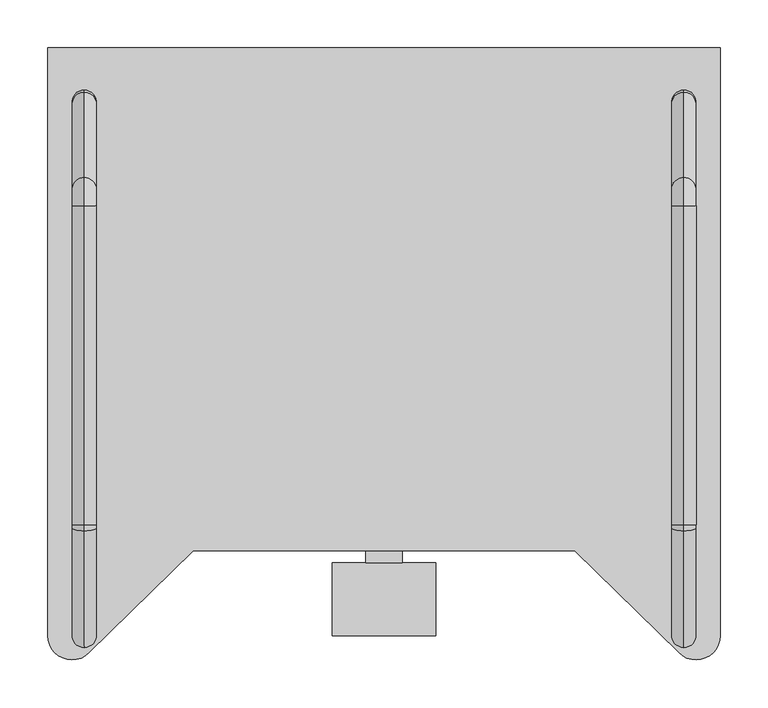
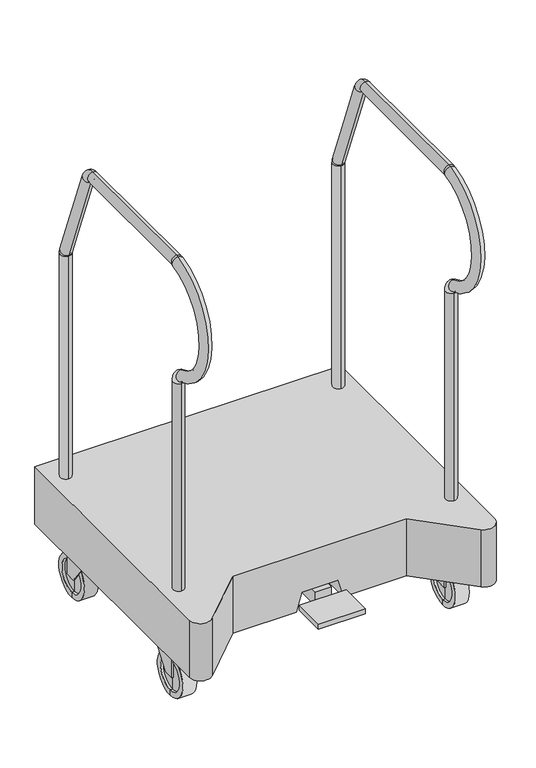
"""IFC4 building model written with IfcOpenShell, lengths in millimetres: furniture geometry."""

from ifc_helpers import new_model, si_unit, point, frame, origin, place, context, project, spatial, polyline, circle_curve, ellipse_curve, trimmed, outline, extrude, faceted_brep, source, transform, mapped, element, save
from ifc_brep_helpers import plane_surface, cylinder_surface, revolved_surface, advanced_brep


def furniture_6c05a9e5(model_context):
    return source(origin(), model_context, "Body", "SolidModel", [
        advanced_brep(
        [(330.2, -180.975, 0.0), (330.2, -180.975, 101.6), (298.45, -180.975, 101.6), (298.45, -180.975, 0.0), (330.2, -180.975, 12.7), (330.2, -180.975, 88.9), (323.85, -180.975, 12.7), (323.85, -180.975, 88.9), (323.85, -180.975, 50.8), (304.8, -180.975, 12.7), (304.8, -180.975, 88.9), (304.8, -180.975, 50.8), (298.45, -180.975, 12.7), (298.45, -180.975, 88.9)],
        [
            (0, 1, circle_curve(frame((330.2, -180.975, 50.8), z_axis=(-1.0, 0.0, 0.0), x_axis=(0.0, 0.0, 1.0)), 50.8)),
            (1, 2),
            (2, 3, circle_curve(frame((298.45, -180.975, 50.8), z_axis=(1.0, 0.0, 0.0), x_axis=(0.0, 0.0, 1.0)), 50.8)),
            (3, 0),
            (1, 0, circle_curve(frame((330.2, -180.975, 50.8), z_axis=(-1.0, 0.0, 0.0), x_axis=(0.0, 0.0, 1.0)), 50.8)),
            (3, 2, circle_curve(frame((298.45, -180.975, 50.8), z_axis=(1.0, 0.0, 0.0), x_axis=(0.0, 0.0, 1.0)), 50.8)),
            (4, 5, circle_curve(frame((330.2, -180.975, 50.8), z_axis=(-1.0, 0.0, 0.0), x_axis=(0.0, 0.0, 1.0)), 38.1)),
            (5, 1),
            (0, 4),
            (5, 4, circle_curve(frame((330.2, -180.975, 50.8), z_axis=(-1.0, 0.0, 0.0), x_axis=(0.0, 0.0, 1.0)), 38.1)),
            (6, 7, circle_curve(frame((323.85, -180.975, 50.8), z_axis=(-1.0, 0.0, 0.0), x_axis=(0.0, 0.0, 1.0)), 38.1)),
            (7, 5),
            (4, 6),
            (7, 6, circle_curve(frame((323.85, -180.975, 50.8), z_axis=(-1.0, 0.0, 0.0), x_axis=(0.0, 0.0, 1.0)), 38.1)),
            (8, 7),
            (6, 8),
            (9, 10, circle_curve(frame((304.8, -180.975, 50.8), z_axis=(-1.0, 0.0, 0.0), x_axis=(0.0, 0.0, 1.0)), 38.1)),
            (10, 11),
            (11, 9),
            (10, 9, circle_curve(frame((304.8, -180.975, 50.8), z_axis=(-1.0, 0.0, 0.0), x_axis=(0.0, 0.0, 1.0)), 38.1)),
            (12, 13, circle_curve(frame((298.45, -180.975, 50.8), z_axis=(-1.0, 0.0, 0.0), x_axis=(0.0, 0.0, 1.0)), 38.1)),
            (13, 10),
            (9, 12),
            (13, 12, circle_curve(frame((298.45, -180.975, 50.8), z_axis=(-1.0, 0.0, 0.0), x_axis=(0.0, 0.0, 1.0)), 38.1)),
            (2, 13),
            (12, 3),
        ],
        [
            cylinder_surface(frame((333.375, -180.975, 50.8), z_axis=(1.0000000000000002, 0.0, 0.0), x_axis=(0.0, 0.0, 1.0)), 50.8),
            plane_surface(frame((330.2, -180.975, 50.8), z_axis=(1.0, 0.0, 0.0), x_axis=(0.0, 0.0, 1.0))),
            revolved_surface(polyline([(330.2, -180.975, 88.9), (323.85, -180.975, 88.9)]), (333.375, -180.975, 50.8), (1.0000000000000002, 0.0, 0.0)),
            plane_surface(frame((323.85, -180.975, 50.8), z_axis=(1.0, 0.0, 0.0), x_axis=(0.0, 0.0, 1.0))),
            plane_surface(frame((304.8, -180.975, 50.8), z_axis=(-1.0, 0.0, 0.0), x_axis=(0.0, 0.0, 1.0))),
            revolved_surface(polyline([(304.8, -180.975, 88.9), (298.45, -180.975, 88.9)]), (333.375, -180.975, 50.8), (1.0000000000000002, 0.0, 0.0)),
            plane_surface(frame((298.45, -180.975, 50.8), z_axis=(-1.0, 0.0, 0.0), x_axis=(0.0, 0.0, 1.0))),
        ],
        [
            (0, [[1, 2, 3, 4]]),
            (0, [[5, -4, 6, -2]]),
            (1, [[7, 8, -1, 9]]),
            (1, [[10, -9, -5, -8]]),
            (2, [[11, 12, -7, 13]]),
            (2, [[14, -13, -10, -12]]),
            (3, [[15, -11, 16]]),
            (3, [[-16, -14, -15]]),
            (4, [[17, 18, 19]]),
            (4, [[20, -19, -18]]),
            (5, [[21, 22, -17, 23]]),
            (5, [[24, -23, -20, -22]]),
            (6, [[-3, 25, -21, 26]]),
            (6, [[-6, -26, -24, -25]]),
        ],
    ),
        faceted_brep([(295.275, -193.675, 120.65), (295.275, -193.675, 50.8), (298.45, -193.675, 50.8), (298.45, -193.675, 117.475), (330.2, -193.675, 117.475), (330.2, -193.675, 50.8), (333.375, -193.675, 50.8), (333.375, -193.675, 120.65), (333.375, -117.475, 120.65), (295.275, -117.475, 120.65), (333.375, -168.275, 50.8), (330.2, -168.275, 50.8), (330.2, -119.7840909, 117.475), (298.45, -119.7840909, 117.475), (298.45, -168.275, 50.8), (295.275, -168.275, 50.8)], [[[0, 1, 2, 3, 4, 5, 6, 7]], [[0, 7, 8, 9]], [[7, 6, 10, 8]], [[6, 5, 11, 10]], [[5, 4, 12, 11]], [[4, 3, 13, 12]], [[3, 2, 14, 13]], [[2, 1, 15, 14]], [[1, 0, 9, 15]], [[9, 8, 10, 11, 12, 13, 14, 15]]]),
        advanced_brep(
        [(298.45, 212.725, 0.0), (298.45, 212.725, 101.6), (330.2, 212.725, 101.6), (330.2, 212.725, 0.0), (298.45, 212.725, 12.7), (298.45, 212.725, 88.9), (304.8, 212.725, 12.7), (304.8, 212.725, 88.9), (304.8, 212.725, 50.8), (323.85, 212.725, 12.7), (323.85, 212.725, 88.9), (323.85, 212.725, 50.8), (330.2, 212.725, 12.7), (330.2, 212.725, 88.9)],
        [
            (0, 1, circle_curve(frame((298.45, 212.725, 50.8), z_axis=(1.0, 0.0, 0.0), x_axis=(0.0, 0.0, 1.0)), 50.8)),
            (1, 2),
            (2, 3, circle_curve(frame((330.2, 212.725, 50.8), z_axis=(-1.0, 0.0, 0.0), x_axis=(0.0, 0.0, 1.0)), 50.8)),
            (3, 0),
            (1, 0, circle_curve(frame((298.45, 212.725, 50.8), z_axis=(1.0, 0.0, 0.0), x_axis=(0.0, 0.0, 1.0)), 50.8)),
            (3, 2, circle_curve(frame((330.2, 212.725, 50.8), z_axis=(-1.0, 0.0, 0.0), x_axis=(0.0, 0.0, 1.0)), 50.8)),
            (4, 5, circle_curve(frame((298.45, 212.725, 50.8), z_axis=(1.0, 0.0, 0.0), x_axis=(0.0, 0.0, 1.0)), 38.1)),
            (5, 1),
            (0, 4),
            (5, 4, circle_curve(frame((298.45, 212.725, 50.8), z_axis=(1.0, 0.0, 0.0), x_axis=(0.0, 0.0, 1.0)), 38.1)),
            (6, 7, circle_curve(frame((304.8, 212.725, 50.8), z_axis=(1.0, 0.0, 0.0), x_axis=(0.0, 0.0, 1.0)), 38.1)),
            (7, 5),
            (4, 6),
            (7, 6, circle_curve(frame((304.8, 212.725, 50.8), z_axis=(1.0, 0.0, 0.0), x_axis=(0.0, 0.0, 1.0)), 38.1)),
            (8, 7),
            (6, 8),
            (9, 10, circle_curve(frame((323.85, 212.725, 50.8), z_axis=(1.0, 0.0, 0.0), x_axis=(0.0, 0.0, 1.0)), 38.1)),
            (10, 11),
            (11, 9),
            (10, 9, circle_curve(frame((323.85, 212.725, 50.8), z_axis=(1.0, 0.0, 0.0), x_axis=(0.0, 0.0, 1.0)), 38.1)),
            (12, 13, circle_curve(frame((330.2, 212.725, 50.8), z_axis=(1.0, 0.0, 0.0), x_axis=(0.0, 0.0, 1.0)), 38.1)),
            (13, 10),
            (9, 12),
            (13, 12, circle_curve(frame((330.2, 212.725, 50.8), z_axis=(1.0, 0.0, 0.0), x_axis=(0.0, 0.0, 1.0)), 38.1)),
            (2, 13),
            (12, 3),
        ],
        [
            cylinder_surface(frame((295.275, 212.725, 50.8), z_axis=(-1.0, 0.0, 0.0), x_axis=(0.0, 0.0, 1.0)), 50.8),
            plane_surface(frame((298.45, 212.725, 50.8), z_axis=(-1.0, 0.0, 0.0), x_axis=(0.0, 0.0, 1.0))),
            revolved_surface(polyline([(298.45, 212.725, 88.9), (304.8, 212.725, 88.9)]), (295.275, 212.725, 50.8), (-1.0, 0.0, 0.0)),
            plane_surface(frame((304.8, 212.725, 50.8), z_axis=(-1.0, 0.0, 0.0), x_axis=(0.0, 0.0, 1.0))),
            plane_surface(frame((323.85, 212.725, 50.8), z_axis=(1.0, 0.0, 0.0), x_axis=(0.0, 0.0, 1.0))),
            revolved_surface(polyline([(323.85, 212.725, 88.9), (330.2, 212.725, 88.9)]), (295.275, 212.725, 50.8), (-1.0, 0.0, 0.0)),
            plane_surface(frame((330.2, 212.725, 50.8), z_axis=(1.0, 0.0, 0.0), x_axis=(0.0, 0.0, 1.0))),
        ],
        [
            (0, [[1, 2, 3, 4]]),
            (0, [[5, -4, 6, -2]]),
            (1, [[7, 8, -1, 9]]),
            (1, [[10, -9, -5, -8]]),
            (2, [[11, 12, -7, 13]]),
            (2, [[14, -13, -10, -12]]),
            (3, [[15, -11, 16]]),
            (3, [[-16, -14, -15]]),
            (4, [[17, 18, 19]]),
            (4, [[20, -19, -18]]),
            (5, [[21, 22, -17, 23]]),
            (5, [[24, -23, -20, -22]]),
            (6, [[-3, 25, -21, 26]]),
            (6, [[-6, -26, -24, -25]]),
        ],
    ),
        faceted_brep([(333.375, 225.425, 120.65), (333.375, 225.425, 50.8), (330.2, 225.425, 50.8), (330.2, 225.425, 117.475), (298.45, 225.425, 117.475), (298.45, 225.425, 50.8), (295.275, 225.425, 50.8), (295.275, 225.425, 120.65), (295.275, 149.225, 120.65), (333.375, 149.225, 120.65), (295.275, 200.025, 50.8), (298.45, 200.025, 50.8), (298.45, 151.5340909, 117.475), (330.2, 151.5340909, 117.475), (330.2, 200.025, 50.8), (333.375, 200.025, 50.8)], [[[0, 1, 2, 3, 4, 5, 6, 7]], [[0, 7, 8, 9]], [[7, 6, 10, 8]], [[6, 5, 11, 10]], [[5, 4, 12, 11]], [[4, 3, 13, 12]], [[3, 2, 14, 13]], [[2, 1, 15, 14]], [[1, 0, 9, 15]], [[9, 8, 10, 11, 12, 13, 14, 15]]]),
        advanced_brep(
        [(-330.2, 212.725, 0.0), (-330.2, 212.725, 101.6), (-298.45, 212.725, 101.6), (-298.45, 212.725, 0.0), (-330.2, 212.725, 12.7), (-330.2, 212.725, 88.9), (-323.85, 212.725, 12.7), (-323.85, 212.725, 88.9), (-323.85, 212.725, 50.8), (-304.8, 212.725, 12.7), (-304.8, 212.725, 88.9), (-304.8, 212.725, 50.8), (-298.45, 212.725, 12.7), (-298.45, 212.725, 88.9)],
        [
            (0, 1, circle_curve(frame((-330.2, 212.725, 50.8), z_axis=(1.0, 0.0, 0.0), x_axis=(0.0, 0.0, 1.0)), 50.8)),
            (1, 2),
            (2, 3, circle_curve(frame((-298.45, 212.725, 50.8), z_axis=(-1.0, 0.0, 0.0), x_axis=(0.0, 0.0, 1.0)), 50.8)),
            (3, 0),
            (1, 0, circle_curve(frame((-330.2, 212.725, 50.8), z_axis=(1.0, 0.0, 0.0), x_axis=(0.0, 0.0, 1.0)), 50.8)),
            (3, 2, circle_curve(frame((-298.45, 212.725, 50.8), z_axis=(-1.0, 0.0, 0.0), x_axis=(0.0, 0.0, 1.0)), 50.8)),
            (4, 5, circle_curve(frame((-330.2, 212.725, 50.8), z_axis=(1.0, 0.0, 0.0), x_axis=(0.0, 0.0, 1.0)), 38.1)),
            (5, 1),
            (0, 4),
            (5, 4, circle_curve(frame((-330.2, 212.725, 50.8), z_axis=(1.0, 0.0, 0.0), x_axis=(0.0, 0.0, 1.0)), 38.1)),
            (6, 7, circle_curve(frame((-323.85, 212.725, 50.8), z_axis=(1.0, 0.0, 0.0), x_axis=(0.0, 0.0, 1.0)), 38.1)),
            (7, 5),
            (4, 6),
            (7, 6, circle_curve(frame((-323.85, 212.725, 50.8), z_axis=(1.0, 0.0, 0.0), x_axis=(0.0, 0.0, 1.0)), 38.1)),
            (8, 7),
            (6, 8),
            (9, 10, circle_curve(frame((-304.8, 212.725, 50.8), z_axis=(1.0, 0.0, 0.0), x_axis=(0.0, 0.0, 1.0)), 38.1)),
            (10, 11),
            (11, 9),
            (10, 9, circle_curve(frame((-304.8, 212.725, 50.8), z_axis=(1.0, 0.0, 0.0), x_axis=(0.0, 0.0, 1.0)), 38.1)),
            (12, 13, circle_curve(frame((-298.45, 212.725, 50.8), z_axis=(1.0, 0.0, 0.0), x_axis=(0.0, 0.0, 1.0)), 38.1)),
            (13, 10),
            (9, 12),
            (13, 12, circle_curve(frame((-298.45, 212.725, 50.8), z_axis=(1.0, 0.0, 0.0), x_axis=(0.0, 0.0, 1.0)), 38.1)),
            (2, 13),
            (12, 3),
        ],
        [
            cylinder_surface(frame((-333.375, 212.725, 50.8), z_axis=(-1.0, 0.0, 0.0), x_axis=(0.0, 0.0, 1.0)), 50.8),
            plane_surface(frame((-330.2, 212.725, 50.8), z_axis=(-1.0, 0.0, 0.0), x_axis=(0.0, 0.0, 1.0))),
            revolved_surface(polyline([(-330.2, 212.725, 88.9), (-323.85, 212.725, 88.9)]), (-333.375, 212.725, 50.8), (-1.0, 0.0, 0.0)),
            plane_surface(frame((-323.85, 212.725, 50.8), z_axis=(-1.0, 0.0, 0.0), x_axis=(0.0, 0.0, 1.0))),
            plane_surface(frame((-304.8, 212.725, 50.8), z_axis=(1.0, 0.0, 0.0), x_axis=(0.0, 0.0, 1.0))),
            revolved_surface(polyline([(-304.8, 212.725, 88.9), (-298.45, 212.725, 88.9)]), (-333.375, 212.725, 50.8), (-1.0, 0.0, 0.0)),
            plane_surface(frame((-298.45, 212.725, 50.8), z_axis=(1.0, 0.0, 0.0), x_axis=(0.0, 0.0, 1.0))),
        ],
        [
            (0, [[1, 2, 3, 4]]),
            (0, [[5, -4, 6, -2]]),
            (1, [[7, 8, -1, 9]]),
            (1, [[10, -9, -5, -8]]),
            (2, [[11, 12, -7, 13]]),
            (2, [[14, -13, -10, -12]]),
            (3, [[15, -11, 16]]),
            (3, [[-16, -14, -15]]),
            (4, [[17, 18, 19]]),
            (4, [[20, -19, -18]]),
            (5, [[21, 22, -17, 23]]),
            (5, [[24, -23, -20, -22]]),
            (6, [[-3, 25, -21, 26]]),
            (6, [[-6, -26, -24, -25]]),
        ],
    ),
        faceted_brep([(-295.275, 225.425, 120.65), (-295.275, 225.425, 50.8), (-298.45, 225.425, 50.8), (-298.45, 225.425, 117.475), (-330.2, 225.425, 117.475), (-330.2, 225.425, 50.8), (-333.375, 225.425, 50.8), (-333.375, 225.425, 120.65), (-333.375, 149.225, 120.65), (-295.275, 149.225, 120.65), (-333.375, 200.025, 50.8), (-330.2, 200.025, 50.8), (-330.2, 151.5340909, 117.475), (-298.45, 151.5340909, 117.475), (-298.45, 200.025, 50.8), (-295.275, 200.025, 50.8)], [[[0, 1, 2, 3, 4, 5, 6, 7]], [[0, 7, 8, 9]], [[7, 6, 10, 8]], [[6, 5, 11, 10]], [[5, 4, 12, 11]], [[4, 3, 13, 12]], [[3, 2, 14, 13]], [[2, 1, 15, 14]], [[1, 0, 9, 15]], [[9, 8, 10, 11, 12, 13, 14, 15]]]),
        advanced_brep(
        [(-298.45, -180.975, 0.0), (-298.45, -180.975, 101.6), (-330.2, -180.975, 101.6), (-330.2, -180.975, 0.0), (-298.45, -180.975, 12.7), (-298.45, -180.975, 88.9), (-304.8, -180.975, 12.7), (-304.8, -180.975, 88.9), (-304.8, -180.975, 50.8), (-323.85, -180.975, 12.7), (-323.85, -180.975, 88.9), (-323.85, -180.975, 50.8), (-330.2, -180.975, 12.7), (-330.2, -180.975, 88.9)],
        [
            (0, 1, circle_curve(frame((-298.45, -180.975, 50.8), z_axis=(-1.0, 0.0, 0.0), x_axis=(0.0, 0.0, 1.0)), 50.8)),
            (1, 2),
            (2, 3, circle_curve(frame((-330.2, -180.975, 50.8), z_axis=(1.0, 0.0, 0.0), x_axis=(0.0, 0.0, 1.0)), 50.8)),
            (3, 0),
            (1, 0, circle_curve(frame((-298.45, -180.975, 50.8), z_axis=(-1.0, 0.0, 0.0), x_axis=(0.0, 0.0, 1.0)), 50.8)),
            (3, 2, circle_curve(frame((-330.2, -180.975, 50.8), z_axis=(1.0, 0.0, 0.0), x_axis=(0.0, 0.0, 1.0)), 50.8)),
            (4, 5, circle_curve(frame((-298.45, -180.975, 50.8), z_axis=(-1.0, 0.0, 0.0), x_axis=(0.0, 0.0, 1.0)), 38.1)),
            (5, 1),
            (0, 4),
            (5, 4, circle_curve(frame((-298.45, -180.975, 50.8), z_axis=(-1.0, 0.0, 0.0), x_axis=(0.0, 0.0, 1.0)), 38.1)),
            (6, 7, circle_curve(frame((-304.8, -180.975, 50.8), z_axis=(-1.0, 0.0, 0.0), x_axis=(0.0, 0.0, 1.0)), 38.1)),
            (7, 5),
            (4, 6),
            (7, 6, circle_curve(frame((-304.8, -180.975, 50.8), z_axis=(-1.0, 0.0, 0.0), x_axis=(0.0, 0.0, 1.0)), 38.1)),
            (8, 7),
            (6, 8),
            (9, 10, circle_curve(frame((-323.85, -180.975, 50.8), z_axis=(-1.0, 0.0, 0.0), x_axis=(0.0, 0.0, 1.0)), 38.1)),
            (10, 11),
            (11, 9),
            (10, 9, circle_curve(frame((-323.85, -180.975, 50.8), z_axis=(-1.0, 0.0, 0.0), x_axis=(0.0, 0.0, 1.0)), 38.1)),
            (12, 13, circle_curve(frame((-330.2, -180.975, 50.8), z_axis=(-1.0, 0.0, 0.0), x_axis=(0.0, 0.0, 1.0)), 38.1)),
            (13, 10),
            (9, 12),
            (13, 12, circle_curve(frame((-330.2, -180.975, 50.8), z_axis=(-1.0, 0.0, 0.0), x_axis=(0.0, 0.0, 1.0)), 38.1)),
            (2, 13),
            (12, 3),
        ],
        [
            cylinder_surface(frame((-295.275, -180.975, 50.8), z_axis=(1.0, 0.0, 0.0), x_axis=(0.0, 0.0, 1.0)), 50.8),
            plane_surface(frame((-298.45, -180.975, 50.8), z_axis=(1.0, 0.0, 0.0), x_axis=(0.0, 0.0, 1.0))),
            revolved_surface(polyline([(-298.45, -180.975, 88.9), (-304.8, -180.975, 88.9)]), (-295.275, -180.975, 50.8), (1.0, 0.0, 0.0)),
            plane_surface(frame((-304.8, -180.975, 50.8), z_axis=(1.0, 0.0, 0.0), x_axis=(0.0, 0.0, 1.0))),
            plane_surface(frame((-323.85, -180.975, 50.8), z_axis=(-1.0, 0.0, 0.0), x_axis=(0.0, 0.0, 1.0))),
            revolved_surface(polyline([(-323.85, -180.975, 88.9), (-330.2, -180.975, 88.9)]), (-295.275, -180.975, 50.8), (1.0, 0.0, 0.0)),
            plane_surface(frame((-330.2, -180.975, 50.8), z_axis=(-1.0, 0.0, 0.0), x_axis=(0.0, 0.0, 1.0))),
        ],
        [
            (0, [[1, 2, 3, 4]]),
            (0, [[5, -4, 6, -2]]),
            (1, [[7, 8, -1, 9]]),
            (1, [[10, -9, -5, -8]]),
            (2, [[11, 12, -7, 13]]),
            (2, [[14, -13, -10, -12]]),
            (3, [[15, -11, 16]]),
            (3, [[-16, -14, -15]]),
            (4, [[17, 18, 19]]),
            (4, [[20, -19, -18]]),
            (5, [[21, 22, -17, 23]]),
            (5, [[24, -23, -20, -22]]),
            (6, [[-3, 25, -21, 26]]),
            (6, [[-6, -26, -24, -25]]),
        ],
    ),
        faceted_brep([(-333.375, -193.675, 120.65), (-333.375, -193.675, 50.8), (-330.2, -193.675, 50.8), (-330.2, -193.675, 117.475), (-298.45, -193.675, 117.475), (-298.45, -193.675, 50.8), (-295.275, -193.675, 50.8), (-295.275, -193.675, 120.65), (-295.275, -117.475, 120.65), (-333.375, -117.475, 120.65), (-295.275, -168.275, 50.8), (-298.45, -168.275, 50.8), (-298.45, -119.7840909, 117.475), (-330.2, -119.7840909, 117.475), (-330.2, -168.275, 50.8), (-333.375, -168.275, 50.8)], [[[0, 1, 2, 3, 4, 5, 6, 7]], [[0, 7, 8, 9]], [[7, 6, 10, 8]], [[6, 5, 11, 10]], [[5, 4, 12, 11]], [[4, 3, 13, 12]], [[3, 2, 14, 13]], [[2, 1, 15, 14]], [[1, 0, 9, 15]], [[9, 8, 10, 11, 12, 13, 14, 15]]]),
        advanced_brep(
        [(314.325, 276.225, 260.35), (314.325, 250.825, 260.35), (314.325, 276.225, 802.9128407), (314.325, 250.825, 802.9128407), (314.325, 250.4017446, 805.1923578), (314.325, 274.108723, 814.3104264), (314.325, 184.8252002, 1046.4475858), (314.325, 161.1182218, 1037.3295172), (314.325, 155.1914772, 1041.4), (314.325, 155.1914772, 1066.8), (314.325, -179.1803665, 1066.8), (314.325, -179.1803665, 1041.4), (314.325, -180.4110139, 1041.2796073), (314.325, -185.3336032, 1066.1980365), (314.325, -196.2537727, 796.7638898), (314.325, -204.3507545, 772.6890298), (314.325, -174.625, 766.6703148), (314.325, -200.025, 766.6703148), (314.325, -200.025, 260.35), (314.325, -174.625, 260.35)],
        [
            (0, 1, circle_curve(frame((314.325, 263.525, 260.35), z_axis=(0.0, 0.0, -1.0), x_axis=(0.0, -1.0, 0.0)), 12.7)),
            (1, 0, circle_curve(frame((314.325, 263.525, 260.35), z_axis=(0.0, 0.0, -1.0), x_axis=(0.0, -1.0, 0.0)), 12.7)),
            (0, 2),
            (2, 3, circle_curve(frame((314.325, 263.525, 802.9128407), z_axis=(0.0, 0.0, -1.0), x_axis=(0.0, -1.0, 0.0)), 12.7)),
            (3, 1),
            (3, 2, circle_curve(frame((314.325, 263.525, 802.9128407), z_axis=(0.0, 0.0, -1.0), x_axis=(0.0, -1.0, 0.0)), 12.7)),
            (4, 3, circle_curve(frame((314.325, 244.475, 802.9128407), z_axis=(-1.0, 0.0, 0.0), x_axis=(0.0, 1.0, 0.0)), 6.35)),
            (2, 5, circle_curve(frame((314.325, 244.475, 802.9128407), z_axis=(1.0, 0.0, 0.0), x_axis=(0.0, 1.0, 0.0)), 31.75)),
            (5, 4, circle_curve(frame((314.325, 262.2552338, 809.7513921), z_axis=(0.0, 0.3589790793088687, -0.9333456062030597), x_axis=(0.0, -0.9333456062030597, -0.3589790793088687)), 12.7)),
            (4, 5, circle_curve(frame((314.325, 262.2552338, 809.7513921), z_axis=(0.0, 0.3589790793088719, -0.9333456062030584), x_axis=(0.0, -0.9333456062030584, -0.3589790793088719)), 12.7)),
            (5, 6),
            (6, 7, circle_curve(frame((314.325, 172.971711, 1041.8885515), z_axis=(0.0, 0.3589790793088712, -0.9333456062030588), x_axis=(0.0, -0.9333456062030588, -0.3589790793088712)), 12.7)),
            (7, 4),
            (7, 6, circle_curve(frame((314.325, 172.971711, 1041.8885515), z_axis=(0.0, 0.3589790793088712, -0.9333456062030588), x_axis=(0.0, -0.9333456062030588, -0.3589790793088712)), 12.7)),
            (8, 7, circle_curve(frame((314.325, 155.1914772, 1035.05), z_axis=(-1.0, 0.0, 0.0), x_axis=(0.0, 0.9333456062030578, 0.35897907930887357)), 6.35)),
            (6, 9, circle_curve(frame((314.325, 155.1914772, 1035.05), z_axis=(1.0, 0.0, 0.0), x_axis=(0.0, 0.9333456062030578, 0.35897907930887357)), 31.75)),
            (9, 8, circle_curve(frame((314.325, 155.1914772, 1054.1), z_axis=(0.0, 1.0, 0.0), x_axis=(0.0, 0.0, -1.0)), 12.7)),
            (8, 9, circle_curve(frame((314.325, 155.1914772, 1054.1), z_axis=(0.0, 1.0, 0.0), x_axis=(0.0, 0.0, -1.0)), 12.7)),
            (9, 10),
            (10, 11, circle_curve(frame((314.325, -179.1803665, 1054.1), z_axis=(0.0, 1.0, 0.0), x_axis=(0.0, 0.0, -1.0)), 12.7)),
            (11, 8),
            (11, 10, circle_curve(frame((314.325, -179.1803665, 1054.1), z_axis=(0.0, 1.0, 0.0), x_axis=(0.0, 0.0, -1.0)), 12.7)),
            (12, 11, circle_curve(frame((314.325, -179.1803665, 1035.05), z_axis=(-1.0, 0.0, 0.0), x_axis=(0.0, 0.0, 1.0)), 6.35)),
            (10, 13, circle_curve(frame((314.325, -179.1803665, 1035.05), z_axis=(1.0, 0.0, 0.0), x_axis=(0.0, 0.0, 1.0)), 31.75)),
            (13, 12, circle_curve(frame((314.325, -182.8723085, 1053.7388219), z_axis=(0.0, 0.9810405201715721, 0.1938027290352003), x_axis=(0.0, 0.1938027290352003, -0.9810405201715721)), 12.7)),
            (12, 13, circle_curve(frame((314.325, -182.8723085, 1053.7388219), z_axis=(0.0, 0.9810405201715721, 0.19380272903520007), x_axis=(0.0, 0.19380272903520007, -0.9810405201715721)), 12.7)),
            (14, 12, circle_curve(frame((314.325, -155.8433541, 916.9167059), z_axis=(-1.0, 0.0, 0.0), x_axis=(0.0, -0.19380272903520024, 0.9810405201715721)), 126.766325)),
            (13, 15, circle_curve(frame((314.325, -155.8433541, 916.9167059), z_axis=(1.0, 0.0, 0.0), x_axis=(0.0, -0.19380272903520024, 0.9810405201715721)), 152.166325)),
            (15, 14, circle_curve(frame((314.325, -200.3022636, 784.7264598), z_axis=(0.0, -0.9478291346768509, 0.3187788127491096), x_axis=(0.0, 0.3187788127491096, 0.9478291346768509)), 12.7)),
            (14, 15, circle_curve(frame((314.325, -200.3022636, 784.7264598), z_axis=(0.0, -0.9478291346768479, 0.31877881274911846), x_axis=(0.0, 0.31877881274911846, 0.9478291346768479)), 12.7)),
            (16, 14, circle_curve(frame((314.325, -206.375, 766.6703148), z_axis=(1.0, 0.0, 0.0), x_axis=(0.0, 0.3187788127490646, 0.9478291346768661)), 31.75)),
            (15, 17, circle_curve(frame((314.325, -206.375, 766.6703148), z_axis=(-1.0, 0.0, 0.0), x_axis=(0.0, 0.3187788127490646, 0.9478291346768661)), 6.35)),
            (17, 16, circle_curve(frame((314.325, -187.325, 766.6703148), z_axis=(0.0, 0.0, 1.0), x_axis=(0.0, 1.0, 0.0)), 12.7)),
            (16, 17, circle_curve(frame((314.325, -187.325, 766.6703148), z_axis=(0.0, 0.0, 1.0), x_axis=(0.0, 1.0, 0.0)), 12.7)),
            (18, 19, circle_curve(frame((314.325, -187.325, 260.35), z_axis=(0.0, 0.0, -1.0), x_axis=(0.0, 1.0, 0.0)), 12.7)),
            (19, 18, circle_curve(frame((314.325, -187.325, 260.35), z_axis=(0.0, 0.0, -1.0), x_axis=(0.0, 1.0, 0.0)), 12.7)),
            (17, 18),
            (19, 16),
        ],
        [
            plane_surface(frame((314.325, 263.525, 260.35), z_axis=(0.0, 0.0, -1.0), x_axis=(1.0, 0.0, 0.0))),
            cylinder_surface(frame((314.325, 263.525, 260.35), z_axis=(0.0, 0.0, -1.0), x_axis=(0.0, -1.0, 0.0)), 12.7),
            revolved_surface(trimmed(ellipse_curve(frame((314.325, 263.525, 802.9128407), z_axis=(0.0, 0.0, -1.0), x_axis=(0.0, -1.0, 0.0)), 12.7, 12.7), [point((314.325, 276.225, 802.9128407))], [point((314.325, 250.825, 802.9128407))], True, "CARTESIAN"), (314.325, 244.475, 802.9128407), (1.0, 0.0, 0.0)),
            revolved_surface(trimmed(ellipse_curve(frame((314.325, 263.525, 802.9128407), z_axis=(0.0, 0.0, -1.0), x_axis=(0.0, -1.0, 0.0)), 12.7, 12.7), [point((314.325, 250.825, 802.9128407))], [point((314.325, 276.225, 802.9128407))], True, "CARTESIAN"), (314.325, 244.475, 802.9128407), (1.0, 0.0, 0.0)),
            cylinder_surface(frame((314.325, 262.2552338, 809.7513921), z_axis=(0.0, 0.3589790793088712, -0.9333456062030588), x_axis=(0.0, -0.9333456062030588, -0.3589790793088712)), 12.7),
            revolved_surface(trimmed(ellipse_curve(frame((314.325, 172.971711, 1041.8885515), z_axis=(0.0, 0.3589790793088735, -0.9333456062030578), x_axis=(0.0, -0.9333456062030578, -0.3589790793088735)), 12.7, 12.7), [point((314.325, 184.8252002, 1046.4475858))], [point((314.325, 161.1182218, 1037.3295172))], True, "CARTESIAN"), (314.325, 155.1914772, 1035.05), (1.0, 0.0, 0.0)),
            revolved_surface(trimmed(ellipse_curve(frame((314.325, 172.971711, 1041.8885515), z_axis=(0.0, 0.3589790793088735, -0.9333456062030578), x_axis=(0.0, -0.9333456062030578, -0.3589790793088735)), 12.7, 12.7), [point((314.325, 161.1182218, 1037.3295172))], [point((314.325, 184.8252002, 1046.4475858))], True, "CARTESIAN"), (314.325, 155.1914772, 1035.05), (1.0, 0.0, 0.0)),
            cylinder_surface(frame((314.325, 155.1914772, 1054.1), z_axis=(0.0, 1.0, 0.0), x_axis=(0.0, 0.0, -1.0)), 12.7),
            revolved_surface(trimmed(ellipse_curve(frame((314.325, -179.1803665, 1054.1), z_axis=(0.0, 1.0, 0.0), x_axis=(0.0, 0.0, -1.0)), 12.7, 12.7), [point((314.325, -179.1803665, 1066.8))], [point((314.325, -179.1803665, 1041.4))], True, "CARTESIAN"), (314.325, -179.1803665, 1035.05), (1.0, 0.0, 0.0)),
            revolved_surface(trimmed(ellipse_curve(frame((314.325, -179.1803665, 1054.1), z_axis=(0.0, 1.0, 0.0), x_axis=(0.0, 0.0, -1.0)), 12.7, 12.7), [point((314.325, -179.1803665, 1041.4))], [point((314.325, -179.1803665, 1066.8))], True, "CARTESIAN"), (314.325, -179.1803665, 1035.05), (1.0, 0.0, 0.0)),
            revolved_surface(trimmed(ellipse_curve(frame((314.325, -182.8723085, 1053.7388219), z_axis=(0.0, 0.9810405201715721, 0.19380272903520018), x_axis=(0.0, 0.19380272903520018, -0.9810405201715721)), 12.7, 12.7), [point((314.325, -185.3336032, 1066.1980365))], [point((314.325, -180.4110139, 1041.2796073))], True, "CARTESIAN"), (314.325, -155.8433541, 916.9167059), (1.0, 0.0, 0.0)),
            revolved_surface(trimmed(ellipse_curve(frame((314.325, -182.8723085, 1053.7388219), z_axis=(0.0, 0.9810405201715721, 0.19380272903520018), x_axis=(0.0, 0.19380272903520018, -0.9810405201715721)), 12.7, 12.7), [point((314.325, -180.4110139, 1041.2796073))], [point((314.325, -185.3336032, 1066.1980365))], True, "CARTESIAN"), (314.325, -155.8433541, 916.9167059), (1.0, 0.0, 0.0)),
            revolved_surface(trimmed(ellipse_curve(frame((314.325, -200.3022636, 784.7264598), z_axis=(0.0, -0.9478291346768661, 0.3187788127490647), x_axis=(0.0, 0.3187788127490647, 0.9478291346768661)), 12.7, 12.7), [point((314.325, -204.3507545, 772.6890298))], [point((314.325, -196.2537727, 796.7638898))], True, "CARTESIAN"), (314.325, -206.375, 766.6703148), (-1.0, 0.0, 0.0)),
            revolved_surface(trimmed(ellipse_curve(frame((314.325, -200.3022636, 784.7264598), z_axis=(0.0, -0.9478291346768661, 0.3187788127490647), x_axis=(0.0, 0.3187788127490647, 0.9478291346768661)), 12.7, 12.7), [point((314.325, -196.2537727, 796.7638898))], [point((314.325, -204.3507545, 772.6890298))], True, "CARTESIAN"), (314.325, -206.375, 766.6703148), (-1.0, 0.0, 0.0)),
            plane_surface(frame((314.325, -187.325, 260.35), z_axis=(0.0, 0.0, -1.0), x_axis=(1.0, 0.0, 0.0))),
            cylinder_surface(frame((314.325, -187.325, 766.6703148), z_axis=(0.0, 0.0, 1.0), x_axis=(0.0, 1.0, 0.0)), 12.7),
        ],
        [
            (0, [[1, 2]]),
            (1, [[-1, 3, 4, 5]]),
            (1, [[-2, -5, 6, -3]]),
            (2, [[7, -4, 8, 9]]),
            (3, [[-8, -6, -7, 10]]),
            (4, [[-9, 11, 12, 13]]),
            (4, [[-10, -13, 14, -11]]),
            (5, [[15, -12, 16, 17]]),
            (6, [[-16, -14, -15, 18]]),
            (7, [[-17, 19, 20, 21]]),
            (7, [[-18, -21, 22, -19]]),
            (8, [[23, -20, 24, 25]]),
            (9, [[-24, -22, -23, 26]]),
            (10, [[27, -25, 28, 29]]),
            (11, [[-28, -26, -27, 30]]),
            (12, [[31, -29, 32, 33]]),
            (13, [[-32, -30, -31, 34]]),
            (14, [[35, 36]]),
            (15, [[-33, 37, -36, 38]]),
            (15, [[-34, -38, -35, -37]]),
        ],
    ),
        advanced_brep(
        [(-314.325, 276.225, 260.35), (-314.325, 250.825, 260.35), (-314.325, 276.225, 802.9128407), (-314.325, 250.825, 802.9128407), (-314.325, 250.4017446, 805.1923578), (-314.325, 274.108723, 814.3104264), (-314.325, 184.8252002, 1046.4475858), (-314.325, 161.1182218, 1037.3295172), (-314.325, 155.1914772, 1041.4), (-314.325, 155.1914772, 1066.8), (-314.325, -179.1803665, 1066.8), (-314.325, -179.1803665, 1041.4), (-314.325, -180.4110139, 1041.2796073), (-314.325, -185.3336032, 1066.1980365), (-314.325, -196.2537727, 796.7638898), (-314.325, -204.3507545, 772.6890298), (-314.325, -174.625, 766.6703148), (-314.325, -200.025, 766.6703148), (-314.325, -200.025, 260.35), (-314.325, -174.625, 260.35)],
        [
            (0, 1, circle_curve(frame((-314.325, 263.525, 260.35), z_axis=(0.0, 0.0, -1.0), x_axis=(0.0, -1.0000000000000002, 0.0)), 12.7)),
            (1, 0, circle_curve(frame((-314.325, 263.525, 260.35), z_axis=(0.0, 0.0, -1.0), x_axis=(0.0, -1.0000000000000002, 0.0)), 12.7)),
            (0, 2),
            (2, 3, circle_curve(frame((-314.325, 263.525, 802.9128407), z_axis=(0.0, 0.0, -1.0), x_axis=(0.0, -1.0000000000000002, 0.0)), 12.7)),
            (3, 1),
            (3, 2, circle_curve(frame((-314.325, 263.525, 802.9128407), z_axis=(0.0, 0.0, -1.0), x_axis=(0.0, -1.0000000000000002, 0.0)), 12.7)),
            (4, 3, circle_curve(frame((-314.325, 244.475, 802.9128407), z_axis=(-1.0, 0.0, 0.0), x_axis=(0.0, 1.0000000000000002, 0.0)), 6.35)),
            (2, 5, circle_curve(frame((-314.325, 244.475, 802.9128407), z_axis=(1.0, 0.0, 0.0), x_axis=(0.0, 1.0000000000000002, 0.0)), 31.75)),
            (5, 4, circle_curve(frame((-314.325, 262.2552338, 809.7513921), z_axis=(0.0, 0.35897907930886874, -0.9333456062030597), x_axis=(0.0, -0.93334560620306, -0.3589790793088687)), 12.7)),
            (4, 5, circle_curve(frame((-314.325, 262.2552338, 809.7513921), z_axis=(0.0, 0.35897907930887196, -0.9333456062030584), x_axis=(0.0, -0.9333456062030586, -0.3589790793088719)), 12.7)),
            (5, 6),
            (6, 7, circle_curve(frame((-314.325, 172.971711, 1041.8885515), z_axis=(0.0, 0.35897907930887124, -0.9333456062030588), x_axis=(0.0, -0.9333456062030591, -0.3589790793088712)), 12.7)),
            (7, 4),
            (7, 6, circle_curve(frame((-314.325, 172.971711, 1041.8885515), z_axis=(0.0, 0.35897907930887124, -0.9333456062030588), x_axis=(0.0, -0.9333456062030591, -0.3589790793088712)), 12.7)),
            (8, 7, circle_curve(frame((-314.325, 155.1914772, 1035.05), z_axis=(-1.0, 0.0, 0.0), x_axis=(0.0, 0.9333456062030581, 0.35897907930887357)), 6.35)),
            (6, 9, circle_curve(frame((-314.325, 155.1914772, 1035.05), z_axis=(1.0, 0.0, 0.0), x_axis=(0.0, 0.9333456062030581, 0.35897907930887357)), 31.75)),
            (9, 8, circle_curve(frame((-314.325, 155.1914772, 1054.1), z_axis=(0.0, 1.0000000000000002, 0.0), x_axis=(0.0, 0.0, -1.0)), 12.7)),
            (8, 9, circle_curve(frame((-314.325, 155.1914772, 1054.1), z_axis=(0.0, 1.0000000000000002, 0.0), x_axis=(0.0, 0.0, -1.0)), 12.7)),
            (9, 10),
            (10, 11, circle_curve(frame((-314.325, -179.1803665, 1054.1), z_axis=(0.0, 1.0, 0.0), x_axis=(0.0, 0.0, -1.0)), 12.7)),
            (11, 8),
            (11, 10, circle_curve(frame((-314.325, -179.1803665, 1054.1), z_axis=(0.0, 1.0, 0.0), x_axis=(0.0, 0.0, -1.0)), 12.7)),
            (12, 11, circle_curve(frame((-314.325, -179.1803665, 1035.05), z_axis=(-1.0, 0.0, 0.0), x_axis=(0.0, 0.0, 1.0)), 6.35)),
            (10, 13, circle_curve(frame((-314.325, -179.1803665, 1035.05), z_axis=(1.0, 0.0, 0.0), x_axis=(0.0, 0.0, 1.0)), 31.75)),
            (13, 12, circle_curve(frame((-314.325, -182.8723085, 1053.7388219), z_axis=(0.0, 0.9810405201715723, 0.1938027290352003), x_axis=(0.0, 0.19380272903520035, -0.9810405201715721)), 12.7)),
            (12, 13, circle_curve(frame((-314.325, -182.8723085, 1053.7388219), z_axis=(0.0, 0.9810405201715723, 0.19380272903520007), x_axis=(0.0, 0.19380272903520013, -0.9810405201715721)), 12.7)),
            (14, 12, circle_curve(frame((-314.325, -155.8433541, 916.9167059), z_axis=(-1.0, 0.0, 0.0), x_axis=(0.0, -0.1938027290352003, 0.9810405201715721)), 126.766325)),
            (13, 15, circle_curve(frame((-314.325, -155.8433541, 916.9167059), z_axis=(1.0, 0.0, 0.0), x_axis=(0.0, -0.1938027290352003, 0.9810405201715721)), 152.166325)),
            (15, 14, circle_curve(frame((-314.325, -200.3022636, 784.7264598), z_axis=(0.0, -0.9478291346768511, 0.3187788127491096), x_axis=(0.0, 0.3187788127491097, 0.9478291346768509)), 12.7)),
            (14, 15, circle_curve(frame((-314.325, -200.3022636, 784.7264598), z_axis=(0.0, -0.9478291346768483, 0.31877881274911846), x_axis=(0.0, 0.3187788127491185, 0.9478291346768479)), 12.7)),
            (16, 14, circle_curve(frame((-314.325, -206.375, 766.6703148), z_axis=(1.0, 0.0, 0.0), x_axis=(0.0, 0.31877881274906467, 0.9478291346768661)), 31.75)),
            (15, 17, circle_curve(frame((-314.325, -206.375, 766.6703148), z_axis=(-1.0, 0.0, 0.0), x_axis=(0.0, 0.31877881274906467, 0.9478291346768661)), 6.35)),
            (17, 16, circle_curve(frame((-314.325, -187.325, 766.6703148), z_axis=(0.0, 0.0, 1.0), x_axis=(0.0, 1.0000000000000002, 0.0)), 12.7)),
            (16, 17, circle_curve(frame((-314.325, -187.325, 766.6703148), z_axis=(0.0, 0.0, 1.0), x_axis=(0.0, 1.0000000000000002, 0.0)), 12.7)),
            (18, 19, circle_curve(frame((-314.325, -187.325, 260.35), z_axis=(0.0, 0.0, -1.0), x_axis=(0.0, 1.0000000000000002, 0.0)), 12.7)),
            (19, 18, circle_curve(frame((-314.325, -187.325, 260.35), z_axis=(0.0, 0.0, -1.0), x_axis=(0.0, 1.0000000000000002, 0.0)), 12.7)),
            (17, 18),
            (19, 16),
        ],
        [
            plane_surface(frame((-314.325, 263.525, 260.35), z_axis=(0.0, 0.0, -1.0), x_axis=(1.0, 0.0, 0.0))),
            cylinder_surface(frame((-314.325, 263.525, 260.35), z_axis=(0.0, 0.0, -1.0), x_axis=(0.0, -1.0000000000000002, 0.0)), 12.7),
            revolved_surface(trimmed(ellipse_curve(frame((-314.325, 263.525, 802.9128407), z_axis=(0.0, 0.0, -1.0), x_axis=(0.0, -1.0000000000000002, 0.0)), 12.7, 12.7), [point((-314.325, 276.225, 802.9128407))], [point((-314.325, 250.825, 802.9128407))], True, "CARTESIAN"), (-314.325, 244.475, 802.9128407), (1.0000000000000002, 0.0, 0.0)),
            revolved_surface(trimmed(ellipse_curve(frame((-314.325, 263.525, 802.9128407), z_axis=(0.0, 0.0, -1.0), x_axis=(0.0, -1.0000000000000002, 0.0)), 12.7, 12.7), [point((-314.325, 250.825, 802.9128407))], [point((-314.325, 276.225, 802.9128407))], True, "CARTESIAN"), (-314.325, 244.475, 802.9128407), (1.0000000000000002, 0.0, 0.0)),
            cylinder_surface(frame((-314.325, 262.2552338, 809.7513921), z_axis=(0.0, 0.35897907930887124, -0.9333456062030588), x_axis=(0.0, -0.9333456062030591, -0.3589790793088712)), 12.7),
            revolved_surface(trimmed(ellipse_curve(frame((-314.325, 172.971711, 1041.8885515), z_axis=(0.0, 0.35897907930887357, -0.9333456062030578), x_axis=(0.0, -0.9333456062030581, -0.3589790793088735)), 12.7, 12.7), [point((-314.325, 184.8252002, 1046.4475858))], [point((-314.325, 161.1182218, 1037.3295172))], True, "CARTESIAN"), (-314.325, 155.1914772, 1035.05), (1.0000000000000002, 0.0, 0.0)),
            revolved_surface(trimmed(ellipse_curve(frame((-314.325, 172.971711, 1041.8885515), z_axis=(0.0, 0.35897907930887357, -0.9333456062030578), x_axis=(0.0, -0.9333456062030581, -0.3589790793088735)), 12.7, 12.7), [point((-314.325, 161.1182218, 1037.3295172))], [point((-314.325, 184.8252002, 1046.4475858))], True, "CARTESIAN"), (-314.325, 155.1914772, 1035.05), (1.0000000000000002, 0.0, 0.0)),
            cylinder_surface(frame((-314.325, 155.1914772, 1054.1), z_axis=(0.0, 1.0000000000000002, 0.0), x_axis=(0.0, 0.0, -1.0)), 12.7),
            revolved_surface(trimmed(ellipse_curve(frame((-314.325, -179.1803665, 1054.1), z_axis=(0.0, 1.0000000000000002, 0.0), x_axis=(0.0, 0.0, -1.0)), 12.7, 12.7), [point((-314.325, -179.1803665, 1066.8))], [point((-314.325, -179.1803665, 1041.4))], True, "CARTESIAN"), (-314.325, -179.1803665, 1035.05), (1.0000000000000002, 0.0, 0.0)),
            revolved_surface(trimmed(ellipse_curve(frame((-314.325, -179.1803665, 1054.1), z_axis=(0.0, 1.0000000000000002, 0.0), x_axis=(0.0, 0.0, -1.0)), 12.7, 12.7), [point((-314.325, -179.1803665, 1041.4))], [point((-314.325, -179.1803665, 1066.8))], True, "CARTESIAN"), (-314.325, -179.1803665, 1035.05), (1.0000000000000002, 0.0, 0.0)),
            revolved_surface(trimmed(ellipse_curve(frame((-314.325, -182.8723085, 1053.7388219), z_axis=(0.0, 0.9810405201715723, 0.19380272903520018), x_axis=(0.0, 0.19380272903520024, -0.9810405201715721)), 12.7, 12.7), [point((-314.325, -185.3336032, 1066.1980365))], [point((-314.325, -180.4110139, 1041.2796073))], True, "CARTESIAN"), (-314.325, -155.8433541, 916.9167059), (1.0000000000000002, 0.0, 0.0)),
            revolved_surface(trimmed(ellipse_curve(frame((-314.325, -182.8723085, 1053.7388219), z_axis=(0.0, 0.9810405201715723, 0.19380272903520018), x_axis=(0.0, 0.19380272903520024, -0.9810405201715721)), 12.7, 12.7), [point((-314.325, -180.4110139, 1041.2796073))], [point((-314.325, -185.3336032, 1066.1980365))], True, "CARTESIAN"), (-314.325, -155.8433541, 916.9167059), (1.0000000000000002, 0.0, 0.0)),
            revolved_surface(trimmed(ellipse_curve(frame((-314.325, -200.3022636, 784.7264598), z_axis=(0.0, -0.9478291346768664, 0.3187788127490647), x_axis=(0.0, 0.3187788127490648, 0.9478291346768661)), 12.7, 12.7), [point((-314.325, -204.3507545, 772.6890298))], [point((-314.325, -196.2537727, 796.7638898))], True, "CARTESIAN"), (-314.325, -206.375, 766.6703148), (-1.0000000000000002, 0.0, 0.0)),
            revolved_surface(trimmed(ellipse_curve(frame((-314.325, -200.3022636, 784.7264598), z_axis=(0.0, -0.9478291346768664, 0.3187788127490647), x_axis=(0.0, 0.3187788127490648, 0.9478291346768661)), 12.7, 12.7), [point((-314.325, -196.2537727, 796.7638898))], [point((-314.325, -204.3507545, 772.6890298))], True, "CARTESIAN"), (-314.325, -206.375, 766.6703148), (-1.0000000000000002, 0.0, 0.0)),
            plane_surface(frame((-314.325, -187.325, 260.35), z_axis=(0.0, 0.0, -1.0), x_axis=(1.0, 0.0, 0.0))),
            cylinder_surface(frame((-314.325, -187.325, 766.6703148), z_axis=(0.0, 0.0, 1.0), x_axis=(0.0, 1.0000000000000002, 0.0)), 12.7),
        ],
        [
            (0, [[1, 2]]),
            (1, [[-1, 3, 4, 5]]),
            (1, [[-2, -5, 6, -3]]),
            (2, [[7, -4, 8, 9]]),
            (3, [[-8, -6, -7, 10]]),
            (4, [[-9, 11, 12, 13]]),
            (4, [[-10, -13, 14, -11]]),
            (5, [[15, -12, 16, 17]]),
            (6, [[-16, -14, -15, 18]]),
            (7, [[-17, 19, 20, 21]]),
            (7, [[-18, -21, 22, -19]]),
            (8, [[23, -20, 24, 25]]),
            (9, [[-24, -22, -23, 26]]),
            (10, [[27, -25, 28, 29]]),
            (11, [[-28, -26, -27, 30]]),
            (12, [[31, -29, 32, 33]]),
            (13, [[-32, -30, -31, 34]]),
            (14, [[35, 36]]),
            (15, [[-33, 37, -36, 38]]),
            (15, [[-34, -38, -35, -37]]),
        ],
    ),
        advanced_brep(
        [(352.425, 320.675, 260.35), (-352.425, 320.675, 260.35), (-352.425, -295.275, 260.35), (-309.2465066, -313.4157049, 260.35), (-200.025, -206.375, 260.35), (200.025, -206.375, 260.35), (309.2465066, -313.4157049, 260.35), (352.425, -295.275, 260.35), (352.425, 320.675, 120.65), (352.425, -295.275, 120.65), (309.2465066, -313.4157049, 120.65), (200.025, -206.375, 120.65), (53.975, -206.375, 120.65), (53.975, -117.475, 120.65), (-53.975, -117.475, 120.65), (-53.975, -206.375, 120.65), (-200.025, -206.375, 120.65), (-309.2465066, -313.4157049, 120.65), (-352.425, -295.275, 120.65), (-352.425, 320.675, 120.65), (-41.275, -206.375, 165.1), (41.275, -206.375, 165.1), (-41.275, -117.475, 165.1), (41.275, -117.475, 165.1)],
        [
            (0, 1),
            (1, 2),
            (2, 3, circle_curve(frame((-327.025, -295.275, 260.35), z_axis=(0.0, 0.0, 1.0), x_axis=(1.0, 0.0, 0.0)), 25.4)),
            (3, 4),
            (4, 5),
            (5, 6),
            (6, 7, circle_curve(frame((327.025, -295.275, 260.35), z_axis=(0.0, 0.0, 1.0), x_axis=(1.0, 0.0, 0.0)), 25.4)),
            (7, 0),
            (8, 9),
            (9, 10, circle_curve(frame((327.025, -295.275, 120.65), z_axis=(0.0, 0.0, -1.0), x_axis=(1.0, 0.0, 0.0)), 25.4)),
            (10, 11),
            (11, 12),
            (12, 13),
            (13, 14),
            (14, 15),
            (15, 16),
            (16, 17),
            (17, 18, circle_curve(frame((-327.025, -295.275, 120.65), z_axis=(0.0, 0.0, -1.0), x_axis=(1.0, 0.0, 0.0)), 25.4)),
            (18, 19),
            (19, 8),
            (0, 8),
            (19, 1),
            (18, 2),
            (17, 3),
            (16, 4),
            (15, 20),
            (20, 21),
            (21, 12),
            (11, 5),
            (10, 6),
            (9, 7),
            (22, 14),
            (13, 23),
            (23, 22),
            (22, 20),
            (21, 23),
        ],
        [
            plane_surface(frame((-352.425, 320.675, 260.35), z_axis=(0.0, 0.0, 1.0), x_axis=(-1.0, 0.0, 0.0))),
            plane_surface(frame((-352.425, 320.675, 120.65), z_axis=(0.0, 0.0, -1.0), x_axis=(1.0, 0.0, 0.0))),
            plane_surface(frame((352.425, 320.675, 260.35), z_axis=(0.0, 1.0, 0.0), x_axis=(0.0, 0.0, -1.0))),
            plane_surface(frame((-352.425, 320.675, 260.35), z_axis=(-1.0, 0.0, 0.0), x_axis=(0.0, 0.0, -1.0))),
            cylinder_surface(frame((-327.025, -295.275, 120.65), z_axis=(0.0, 0.0, 1.0), x_axis=(1.0, 0.0, 0.0)), 25.4),
            plane_surface(frame((-309.2465066, -313.4157049, 260.35), z_axis=(0.6999406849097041, -0.714200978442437, 0.0), x_axis=(0.0, 0.0, -1.0))),
            plane_surface(frame((-200.025, -206.375, 260.35), z_axis=(0.0, -1.0, 0.0), x_axis=(0.0, 0.0, -1.0))),
            plane_surface(frame((200.025, -206.375, 260.35), z_axis=(-0.6999406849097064, -0.7142009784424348, 0.0), x_axis=(0.0, 0.0, -1.0))),
            cylinder_surface(frame((327.025, -295.275, 120.65), z_axis=(0.0, 0.0, 1.0), x_axis=(1.0, 0.0, 0.0)), 25.4),
            plane_surface(frame((352.425, -295.275, 260.35), z_axis=(1.0, 0.0, 0.0), x_axis=(0.0, 0.0, -1.0))),
            plane_surface(frame((-53.975, -117.475, 120.65), z_axis=(0.0, -1.0, 0.0), x_axis=(0.27472112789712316, 0.0, 0.961523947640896))),
            plane_surface(frame((-41.275, -206.375, 165.1), z_axis=(0.961523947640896, 0.0, -0.27472112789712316), x_axis=(0.0, 1.0, 0.0))),
            plane_surface(frame((53.975, -206.375, 120.65), z_axis=(-0.9615239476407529, 0.0, -0.27472112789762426), x_axis=(0.0, 1.0, 0.0))),
            plane_surface(frame((41.275, -206.375, 165.1), z_axis=(0.0, 0.0, -1.0), x_axis=(0.0, 1.0, 0.0))),
        ],
        [
            (0, [[1, 2, 3, 4, 5, 6, 7, 8]]),
            (1, [[9, 10, 11, 12, 13, 14, 15, 16, 17, 18, 19, 20]]),
            (2, [[-1, 21, -20, 22]]),
            (3, [[-2, -22, -19, 23]]),
            (4, [[-3, -23, -18, 24]]),
            (5, [[-4, -24, -17, 25]]),
            (6, [[-5, -25, -16, 26, 27, 28, -12, 29]]),
            (7, [[-6, -29, -11, 30]]),
            (8, [[-7, -30, -10, 31]]),
            (9, [[-8, -31, -9, -21]]),
            (10, [[32, -14, 33, 34]]),
            (11, [[-32, 35, -26, -15]]),
            (12, [[-33, -13, -28, 36]]),
            (13, [[-34, -36, -27, -35]]),
        ],
    ),
        extrude(outline(polyline([(53.975, -219.075), (53.975, -295.275), (-53.975, -295.275), (-53.975, -219.075), (53.975, -219.075)])), frame((0.0, 0.0, 133.35), z_axis=(0.0, 0.0, 1.0), x_axis=(1.0, 0.0, 0.0)), (0.0, 0.0, 1.0), 12.7),
        extrude(outline(polyline([(19.05, -117.475), (19.05, -219.075), (-19.05, -219.075), (-19.05, -117.475), (19.05, -117.475)])), frame((0.0, 0.0, 133.35), z_axis=(0.0, 0.0, 1.0), x_axis=(1.0, 0.0, 0.0)), (0.0, 0.0, 1.0), 31.75),
    ])


if __name__ == "__main__":
    model = new_model("IFC4")
    model_context = context("Model", 3, world=origin())
    ifc_project = project(units=[si_unit("LENGTHUNIT", "METRE", prefix="MILLI")], contexts=[model_context])
    site = spatial("IfcSite", under=ifc_project)
    building = spatial("IfcBuilding", under=site)
    placement = place(None, origin())
    furniture_shape = furniture_6c05a9e5(model_context)
    element("IfcFurniture", 1, ObjectType="HermanMiller_CoStruc_CO342_TR3Cart : 41\"H x 25\"D x 27\"W", at=placement, inside=building, context=model_context, shape_type="MappedRepresentation", body=[
        mapped(furniture_shape, transform((0.0, 0.0, 0.0), x_axis=(1.0, 0.0, 0.0), y_axis=(0.0, 1.0, 0.0), z_axis=(0.0, 0.0, 1.0))),
    ])
    save(model, "model.ifc")
